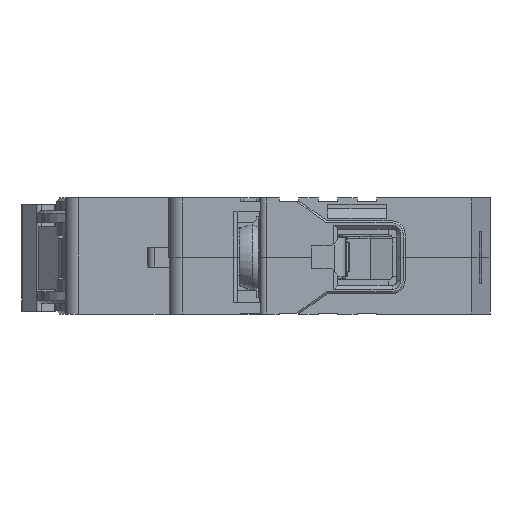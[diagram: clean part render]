
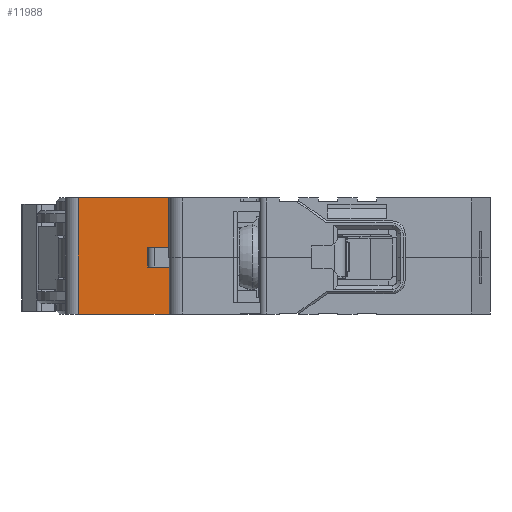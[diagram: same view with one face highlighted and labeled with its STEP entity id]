
A CAD part, left-side view. The second image highlights one B-rep face of the part: STEP entity #11988.
In plain terms, the highlighted planar face has unit normal (-1, 0, 0).
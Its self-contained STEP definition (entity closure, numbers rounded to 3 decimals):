
#725 = CARTESIAN_POINT ( 'NONE',  ( -18.5, 5., -8.75 ) ) ;
#3088 = LINE ( 'NONE', #725, #33533 ) ;
#3312 = VECTOR ( 'NONE', #37346, 1000. ) ;
#3458 = VECTOR ( 'NONE', #41935, 1000. ) ;
#3841 = CARTESIAN_POINT ( 'NONE',  ( -18.5, -10.9, 10.004 ) ) ;
#4033 = VERTEX_POINT ( 'NONE', #40408 ) ;
#4540 = CARTESIAN_POINT ( 'NONE',  ( -18.5, -11., -1.5 ) ) ;
#5303 = ORIENTED_EDGE ( 'NONE', *, *, #45150, .F. ) ;
#5817 = CARTESIAN_POINT ( 'NONE',  ( -18.5, 0., 9.15 ) ) ;
#5987 = DIRECTION ( 'NONE',  ( 0., -1., 0. ) ) ;
#6006 = DIRECTION ( 'NONE',  ( 0., 1., 0. ) ) ;
#6258 = FACE_OUTER_BOUND ( 'NONE', #20583, .T. ) ;
#6363 = DIRECTION ( 'NONE',  ( -1., 0., 0. ) ) ;
#6895 = CARTESIAN_POINT ( 'NONE',  ( -18.5, -11., -1.5 ) ) ;
#8970 = CARTESIAN_POINT ( 'NONE',  ( -18.5, -7.7, 1.5 ) ) ;
#10801 = DIRECTION ( 'NONE',  ( 0., 0., 1. ) ) ;
#10935 = ORIENTED_EDGE ( 'NONE', *, *, #46482, .F. ) ;
#11366 = CARTESIAN_POINT ( 'NONE',  ( -18.5, 5., 103.394 ) ) ;
#11774 = VERTEX_POINT ( 'NONE', #57571 ) ;
#11788 = ORIENTED_EDGE ( 'NONE', *, *, #23725, .F. ) ;
#11988 = ADVANCED_FACE ( 'NONE', ( #6258 ), #50931, .T. ) ;
#13070 = DIRECTION ( 'NONE',  ( 0., 0., -1. ) ) ;
#13889 = VERTEX_POINT ( 'NONE', #56967 ) ;
#16972 = EDGE_CURVE ( 'NONE', #41231, #36444, #42386, .T. ) ;
#17349 = VECTOR ( 'NONE', #13070, 1000. ) ;
#17708 = VERTEX_POINT ( 'NONE', #49382 ) ;
#19657 = CARTESIAN_POINT ( 'NONE',  ( -18.5, -7.7, -1.5 ) ) ;
#20583 = EDGE_LOOP ( 'NONE', ( #10935, #54744, #11788, #54512, #26164, #36082, #5303, #45726 ) ) ;
#20875 = AXIS2_PLACEMENT_3D ( 'NONE', #11366, #6363, #10801 ) ;
#22023 = EDGE_CURVE ( 'NONE', #24813, #13889, #44950, .T. ) ;
#23725 = EDGE_CURVE ( 'NONE', #13889, #36444, #3088, .T. ) ;
#24674 = VECTOR ( 'NONE', #6006, 1000. ) ;
#24813 = VERTEX_POINT ( 'NONE', #4540 ) ;
#26164 = ORIENTED_EDGE ( 'NONE', *, *, #41597, .T. ) ;
#28020 = VECTOR ( 'NONE', #55144, 1000. ) ;
#30529 = CARTESIAN_POINT ( 'NONE',  ( -18.5, 3., 9.15 ) ) ;
#31855 = DIRECTION ( 'NONE',  ( 0., 1., 0. ) ) ;
#32005 = EDGE_CURVE ( 'NONE', #4033, #11774, #48592, .T. ) ;
#32610 = VERTEX_POINT ( 'NONE', #8970 ) ;
#33330 = VECTOR ( 'NONE', #48131, 1000. ) ;
#33533 = VECTOR ( 'NONE', #31855, 1000. ) ;
#36082 = ORIENTED_EDGE ( 'NONE', *, *, #52876, .T. ) ;
#36444 = VERTEX_POINT ( 'NONE', #37955 ) ;
#36935 = LINE ( 'NONE', #5817, #39717 ) ;
#37346 = DIRECTION ( 'NONE',  ( 0., 0., 1. ) ) ;
#37955 = CARTESIAN_POINT ( 'NONE',  ( -18.5, 3., -8.75 ) ) ;
#39205 = LINE ( 'NONE', #6895, #28020 ) ;
#39717 = VECTOR ( 'NONE', #5987, 1000. ) ;
#40408 = CARTESIAN_POINT ( 'NONE',  ( -18.5, -10.9, 9.15 ) ) ;
#41231 = VERTEX_POINT ( 'NONE', #30529 ) ;
#41597 = EDGE_CURVE ( 'NONE', #24813, #17708, #39205, .T. ) ;
#41935 = DIRECTION ( 'NONE',  ( 0., 0., -1. ) ) ;
#42386 = LINE ( 'NONE', #52771, #33330 ) ;
#44771 = CARTESIAN_POINT ( 'NONE',  ( -18.5, -11., 1.5 ) ) ;
#44950 = LINE ( 'NONE', #54965, #3458 ) ;
#45150 = EDGE_CURVE ( 'NONE', #11774, #32610, #56680, .T. ) ;
#45726 = ORIENTED_EDGE ( 'NONE', *, *, #32005, .F. ) ;
#46482 = EDGE_CURVE ( 'NONE', #41231, #4033, #36935, .T. ) ;
#47635 = LINE ( 'NONE', #19657, #3312 ) ;
#48131 = DIRECTION ( 'NONE',  ( 0., 0., -1. ) ) ;
#48592 = LINE ( 'NONE', #3841, #17349 ) ;
#49382 = CARTESIAN_POINT ( 'NONE',  ( -18.5, -7.7, -1.5 ) ) ;
#50931 = PLANE ( 'NONE',  #20875 ) ;
#52771 = CARTESIAN_POINT ( 'NONE',  ( -18.5, 3., 103.394 ) ) ;
#52876 = EDGE_CURVE ( 'NONE', #17708, #32610, #47635, .T. ) ;
#54512 = ORIENTED_EDGE ( 'NONE', *, *, #22023, .F. ) ;
#54744 = ORIENTED_EDGE ( 'NONE', *, *, #16972, .T. ) ;
#54965 = CARTESIAN_POINT ( 'NONE',  ( -18.5, -11., 103.394 ) ) ;
#55144 = DIRECTION ( 'NONE',  ( 0., 1., 0. ) ) ;
#56680 = LINE ( 'NONE', #44771, #24674 ) ;
#56967 = CARTESIAN_POINT ( 'NONE',  ( -18.5, -11., -8.75 ) ) ;
#57571 = CARTESIAN_POINT ( 'NONE',  ( -18.5, -10.9, 1.5 ) ) ;
